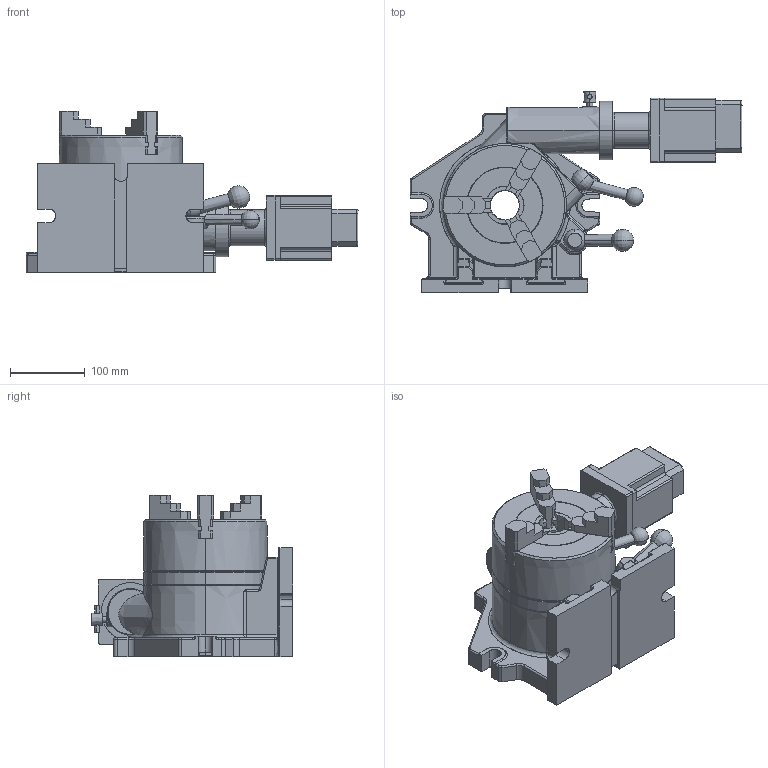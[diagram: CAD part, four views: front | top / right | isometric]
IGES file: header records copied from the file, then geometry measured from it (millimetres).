
Start section: SolidWorks IGES file using analytic representation for surfaces
Global section: file name: R:\Drawings\Files saved as other types\Solid_Models\MODELS FOR PUBLIC\341123 6-INCH SUPER SPACER W-CHUCK.IGS; native system: SolidWorks 2012; preprocessor: SolidWorks 2012; author: rtooley; date: 140609.115612; units: inch
Bounding box: 444.41 x 269.59 x 215.79 mm (x, y, z)
Surface area: 576346.2 mm2 (no closed solid volume)
Topology: 0 solids, 0 shells, 699 faces, 8455 edges, 8429 vertices
Faces by surface type: bspline 413, revolution 286
